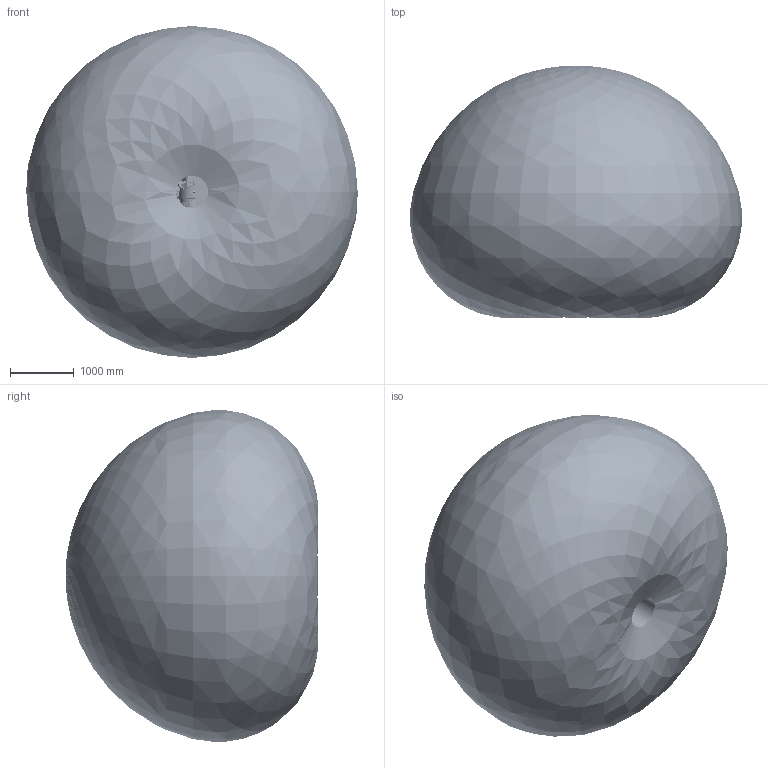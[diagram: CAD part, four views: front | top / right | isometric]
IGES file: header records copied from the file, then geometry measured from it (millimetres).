
Start section: SolidWorks IGES file using analytic representation for surfaces
Global section: file name: R:\RD\PME\SOLIDWK\CR82460000\CR82466700\SEMPLIFICATO\CONVERSIONI\N-170-3.0.IGS; native system: SolidWorks 2020; preprocessor: SolidWorks 2020; author: F92950A; date: 220510.173750; units: millimetre
Bounding box: 5195.73 x 3963.82 x 5204.65 mm (x, y, z)
Volume: 56759322435.5 mm3; surface area: 106080722.5 mm2
Topology: 135 solids, 174 shells, 8648 faces, 28045 edges, 20263 vertices
Faces by surface type: revolution 3682, plane 3471, bspline 1495
